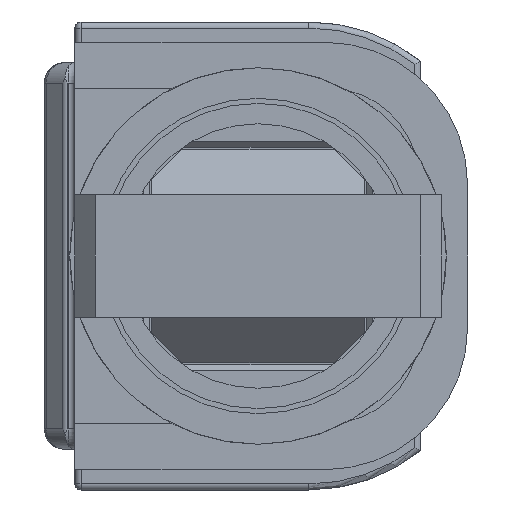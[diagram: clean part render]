
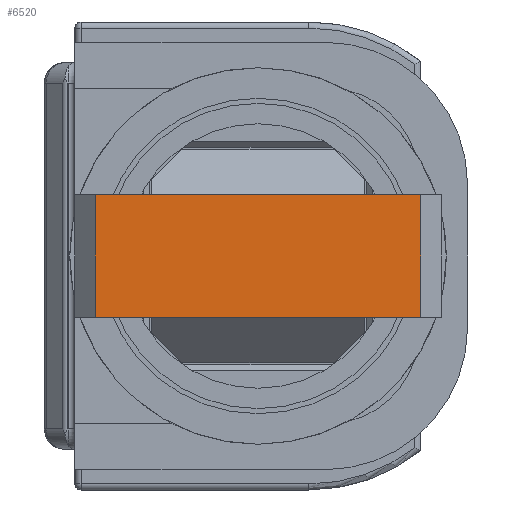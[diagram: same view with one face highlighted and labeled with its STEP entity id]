
A CAD part, front view. The second image highlights one B-rep face of the part: STEP entity #6520.
In plain terms, the highlighted planar face has unit normal (0, -1, 0).
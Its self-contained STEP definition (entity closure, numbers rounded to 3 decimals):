
#6004=DIRECTION('',(0.,0.,1.));
#6005=VECTOR('',#6004,16.);
#6006=CARTESIAN_POINT('',(3.,-114.5,-8.));
#6007=LINE('',#6006,#6005);
#6054=DIRECTION('',(1.,0.,0.));
#6055=VECTOR('',#6054,6.);
#6056=CARTESIAN_POINT('',(-3.,-114.5,8.));
#6057=LINE('',#6056,#6055);
#6058=DIRECTION('',(-1.,0.,0.));
#6059=VECTOR('',#6058,6.);
#6060=CARTESIAN_POINT('',(3.,-114.5,-8.));
#6061=LINE('',#6060,#6059);
#6062=DIRECTION('',(0.,0.,1.));
#6063=VECTOR('',#6062,16.);
#6064=CARTESIAN_POINT('',(-3.,-114.5,-8.));
#6065=LINE('',#6064,#6063);
#6203=CARTESIAN_POINT('',(3.,-114.5,8.));
#6205=VERTEX_POINT('',#6203);
#6206=CARTESIAN_POINT('',(-3.,-114.5,8.));
#6207=VERTEX_POINT('',#6206);
#6211=CARTESIAN_POINT('',(-3.,-114.5,-8.));
#6213=VERTEX_POINT('',#6211);
#6214=CARTESIAN_POINT('',(3.,-114.5,-8.));
#6215=VERTEX_POINT('',#6214);
#6508=CARTESIAN_POINT('',(-3.,-114.5,-9.));
#6509=DIRECTION('',(0.,-1.,0.));
#6510=DIRECTION('',(1.,0.,0.));
#6511=AXIS2_PLACEMENT_3D('',#6508,#6509,#6510);
#6512=PLANE('',#6511);
#6513=ORIENTED_EDGE('',*,*,#6500,.T.);
#6514=ORIENTED_EDGE('',*,*,#6426,.F.);
#6516=ORIENTED_EDGE('',*,*,#6515,.T.);
#6517=ORIENTED_EDGE('',*,*,#6459,.T.);
#6518=EDGE_LOOP('',(#6513,#6514,#6516,#6517));
#6519=FACE_OUTER_BOUND('',#6518,.F.);
#6520=ADVANCED_FACE('',(#6519),#6512,.T.);
#6426=EDGE_CURVE('',#6215,#6205,#6007,.T.);
#6459=EDGE_CURVE('',#6213,#6207,#6065,.T.);
#6500=EDGE_CURVE('',#6207,#6205,#6057,.T.);
#6515=EDGE_CURVE('',#6215,#6213,#6061,.T.);
